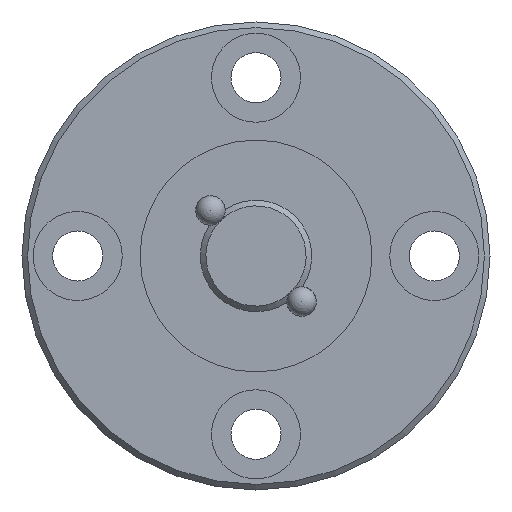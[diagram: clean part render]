
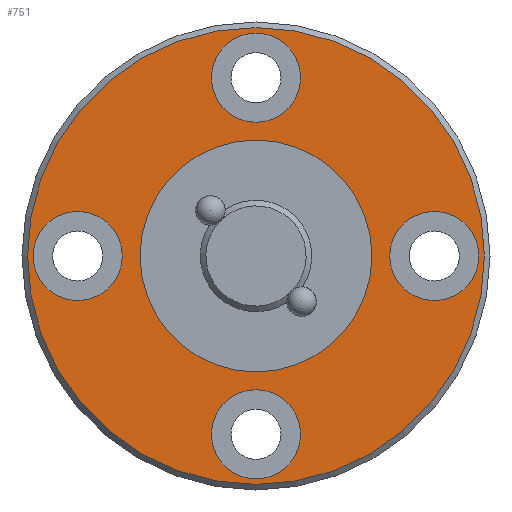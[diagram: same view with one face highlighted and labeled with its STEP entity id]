
A CAD part, left-side view. The second image highlights one B-rep face of the part: STEP entity #751.
In plain terms, the highlighted planar face has unit normal (-1, 0, 0).
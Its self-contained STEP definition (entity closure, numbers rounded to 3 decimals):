
#43=PLANE('',#845);
#94=CIRCLE('',#843,20.5);
#96=CIRCLE('',#846,10.4);
#97=CIRCLE('',#847,4.);
#98=CIRCLE('',#848,4.);
#99=CIRCLE('',#849,4.);
#100=CIRCLE('',#850,4.);
#191=ORIENTED_EDGE('',*,*,#339,.T.);
#192=ORIENTED_EDGE('',*,*,#340,.T.);
#193=ORIENTED_EDGE('',*,*,#341,.T.);
#194=ORIENTED_EDGE('',*,*,#342,.T.);
#195=ORIENTED_EDGE('',*,*,#343,.T.);
#196=ORIENTED_EDGE('',*,*,#337,.T.);
#337=EDGE_CURVE('',#415,#415,#94,.T.);
#339=EDGE_CURVE('',#417,#417,#96,.T.);
#340=EDGE_CURVE('',#418,#418,#97,.T.);
#341=EDGE_CURVE('',#419,#419,#98,.T.);
#342=EDGE_CURVE('',#420,#420,#99,.T.);
#343=EDGE_CURVE('',#421,#421,#100,.T.);
#415=VERTEX_POINT('',#1252);
#417=VERTEX_POINT('',#1257);
#418=VERTEX_POINT('',#1259);
#419=VERTEX_POINT('',#1261);
#420=VERTEX_POINT('',#1263);
#421=VERTEX_POINT('',#1265);
#498=EDGE_LOOP('',(#191));
#499=EDGE_LOOP('',(#192));
#500=EDGE_LOOP('',(#193));
#501=EDGE_LOOP('',(#194));
#502=EDGE_LOOP('',(#195));
#503=EDGE_LOOP('',(#196));
#614=FACE_BOUND('',#498,.T.);
#615=FACE_BOUND('',#499,.T.);
#616=FACE_BOUND('',#500,.T.);
#617=FACE_BOUND('',#501,.T.);
#618=FACE_BOUND('',#502,.T.);
#619=FACE_BOUND('',#503,.T.);
#751=ADVANCED_FACE('',(#614,#615,#616,#617,#618,#619),#43,.F.);
#843=AXIS2_PLACEMENT_3D('',#1251,#987,#988);
#845=AXIS2_PLACEMENT_3D('',#1255,#991,#992);
#846=AXIS2_PLACEMENT_3D('',#1256,#993,#994);
#847=AXIS2_PLACEMENT_3D('',#1258,#995,#996);
#848=AXIS2_PLACEMENT_3D('',#1260,#997,#998);
#849=AXIS2_PLACEMENT_3D('',#1262,#999,#1000);
#850=AXIS2_PLACEMENT_3D('',#1264,#1001,#1002);
#987=DIRECTION('',(-1.,0.,0.));
#988=DIRECTION('',(0.,0.,1.));
#991=DIRECTION('',(1.,0.,0.));
#992=DIRECTION('',(0.,0.,-1.));
#993=DIRECTION('',(1.,0.,0.));
#994=DIRECTION('',(0.,0.,-1.));
#995=DIRECTION('',(1.,0.,0.));
#996=DIRECTION('',(0.,0.,1.));
#997=DIRECTION('',(1.,0.,0.));
#998=DIRECTION('',(0.,0.,1.));
#999=DIRECTION('',(1.,0.,0.));
#1000=DIRECTION('',(0.,-1.,0.));
#1001=DIRECTION('',(1.,0.,0.));
#1002=DIRECTION('',(0.,-1.,0.));
#1251=CARTESIAN_POINT('',(-16.5,0.,0.));
#1252=CARTESIAN_POINT('',(-16.5,0.,20.5));
#1255=CARTESIAN_POINT('',(-16.5,20.5,0.));
#1256=CARTESIAN_POINT('',(-16.5,0.,0.));
#1257=CARTESIAN_POINT('',(-16.5,0.,-10.4));
#1258=CARTESIAN_POINT('',(-16.5,0.,16.));
#1259=CARTESIAN_POINT('',(-16.5,0.,20.));
#1260=CARTESIAN_POINT('',(-16.5,0.,-16.));
#1261=CARTESIAN_POINT('',(-16.5,0.,-12.));
#1262=CARTESIAN_POINT('',(-16.5,-16.,0.));
#1263=CARTESIAN_POINT('',(-16.5,-20.,0.));
#1264=CARTESIAN_POINT('',(-16.5,16.,0.));
#1265=CARTESIAN_POINT('',(-16.5,12.,0.));
